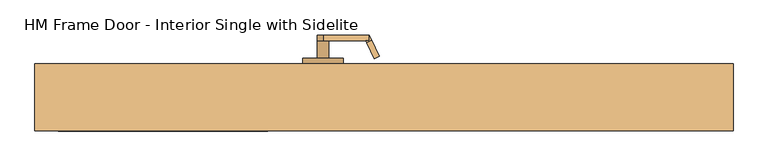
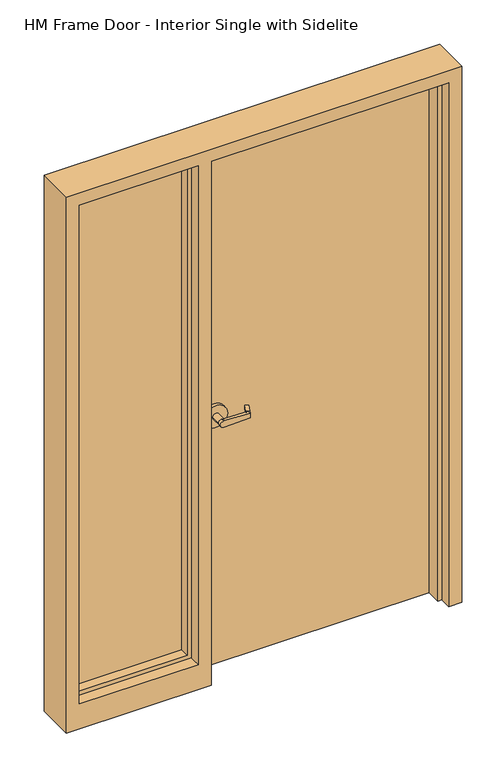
"""IFC4 building model written with IfcOpenShell, lengths in millimetres: door geometry."""

from ifc_helpers import new_model, si_unit, frame, origin, origin_with_axes, place, context, project, spatial, polyline, circle_curve, outline, extrude, faceted_brep, source, transform, mapped, element, save
from ifc_brep_helpers import plane_surface, cylinder_surface, advanced_brep


def hm_frame_door_interior_single_with_sidelite_831faa12(model_context):
    return source(origin(), model_context, "Body", "SolidModel", [
        advanced_brep(
        [(-291.892857, -18.0476392, 1025.525), (-275.7911012, 16.4826875, 1022.35), (-275.7911012, 16.4826875, 1009.65), (-291.892857, -18.0476392, 1006.475), (-293.8407923, -22.225, 1006.475), (-293.8407923, -22.225, 1025.525), (-285.75, -34.925, 1006.475), (-280.3827481, -23.4148911, 1006.475), (-264.2809923, 11.1154356, 1009.65), (-264.2809923, 11.1154356, 1022.35), (-280.3827481, -23.4148911, 1025.525), (-285.75, -34.925, 1025.525), (-285.75, -22.225, 1025.525), (-285.75, -22.225, 1006.475), (-386.9525418, -34.925, 1028.6937791), (-386.9525418, -34.925, 1003.3062209), (-386.9525418, -22.225, 1003.3062209), (-374.65, -22.225, 1016.0), (-386.9525418, -22.225, 1028.6937791), (-400.05, -22.225, 1016.0), (-400.05, 15.875, 1016.0), (-374.65, 15.875, 1016.0), (-431.8, 15.875, 1016.0), (-342.9, 15.875, 1016.0), (-431.8, 28.575, 1016.0), (-342.9, 28.575, 1016.0)],
        [
            (0, 1),
            (1, 2),
            (2, 3),
            (3, 4),
            (4, 5),
            (5, 0),
            (6, 7),
            (7, 8),
            (8, 9),
            (9, 10),
            (10, 11),
            (11, 6),
            (10, 0),
            (5, 12),
            (12, 11),
            (9, 1),
            (8, 2),
            (7, 3),
            (6, 13),
            (13, 4),
            (11, 14),
            (14, 15, circle_curve(frame((-387.35, -34.925, 1016.0), z_axis=(0.0, -1.0, 0.0), x_axis=(1.0, 0.0, 0.0)), 12.7)),
            (15, 6),
            (13, 16),
            (16, 17, circle_curve(frame((-387.35, -22.225, 1016.0), z_axis=(0.0, -1.0, 0.0), x_axis=(1.0, 0.0, 0.0)), 12.7)),
            (17, 18, circle_curve(frame((-387.35, -22.225, 1016.0), z_axis=(0.0, -1.0, 0.0), x_axis=(1.0, 0.0, 0.0)), 12.7)),
            (18, 12),
            (18, 14),
            (18, 19, circle_curve(frame((-387.35, -22.225, 1016.0), z_axis=(0.0, -1.0, 0.0), x_axis=(1.0, 0.0, 0.0)), 12.7)),
            (19, 16, circle_curve(frame((-387.35, -22.225, 1016.0), z_axis=(0.0, -1.0, 0.0), x_axis=(1.0, 0.0, 0.0)), 12.7)),
            (16, 15),
            (19, 20),
            (20, 21, circle_curve(frame((-387.35, 15.875, 1016.0), z_axis=(0.0, -1.0, 0.0), x_axis=(1.0, 0.0, 0.0)), 12.7)),
            (21, 17),
            (21, 20, circle_curve(frame((-387.35, 15.875, 1016.0), z_axis=(0.0, -1.0, 0.0), x_axis=(1.0, 0.0, 0.0)), 12.7)),
            (22, 23, circle_curve(frame((-387.35, 15.875, 1016.0), z_axis=(0.0, -1.0, 0.0), x_axis=(1.0, 0.0, 0.0)), 44.45)),
            (23, 22, circle_curve(frame((-387.35, 15.875, 1016.0), z_axis=(0.0, -1.0, 0.0), x_axis=(1.0, 0.0, 0.0)), 44.45)),
            (24, 25, circle_curve(frame((-387.35, 28.575, 1016.0), z_axis=(0.0, 1.0, 0.0), x_axis=(1.0, 0.0, 0.0)), 44.45)),
            (25, 24, circle_curve(frame((-387.35, 28.575, 1016.0), z_axis=(0.0, 1.0, 0.0), x_axis=(1.0, 0.0, 0.0)), 44.45)),
            (22, 24),
            (25, 23),
        ],
        [
            plane_surface(frame((-297.2601089, -29.5577481, 1025.525), z_axis=(-0.9063077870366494, 0.4226182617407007, 0.0), x_axis=(0.0, 0.0, 1.0))),
            plane_surface(frame((-285.75, -34.925, 1025.525), z_axis=(0.9063077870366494, -0.4226182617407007, 0.0), x_axis=(0.0, 0.0, -1.0))),
            plane_surface(frame((-297.2601089, -29.5577481, 1025.525), z_axis=(0.0, 0.0, 1.0000000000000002), x_axis=(0.9063077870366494, -0.42261826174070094, 0.0))),
            plane_surface(frame((-291.892857, -18.0476392, 1025.525), z_axis=(0.035096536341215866, 0.07526476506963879, 0.9965457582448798), x_axis=(0.9063077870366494, -0.42261826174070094, 0.0))),
            plane_surface(frame((-275.7911012, 16.4826875, 1022.35), z_axis=(0.42261826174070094, 0.9063077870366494, 0.0), x_axis=(0.9063077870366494, -0.42261826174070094, 0.0))),
            plane_surface(frame((-275.7911012, 16.4826875, 1009.65), z_axis=(0.03509653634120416, 0.07526476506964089, -0.9965457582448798), x_axis=(0.9063077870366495, -0.42261826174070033, 0.0))),
            plane_surface(frame((-291.892857, -18.0476392, 1006.475), z_axis=(0.0, 0.0, -1.0000000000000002), x_axis=(0.9063077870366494, -0.42261826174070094, 0.0))),
            plane_surface(frame((-285.75, -34.925, 1025.525), z_axis=(0.0, -1.0, 0.0), x_axis=(-0.9995101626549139, 0.0, 0.03129592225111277))),
            plane_surface(frame((-285.75, -22.225, 1025.525), z_axis=(0.0, 1.0, 0.0), x_axis=(0.9995101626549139, 0.0, -0.03129592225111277))),
            plane_surface(frame((-285.75, -34.925, 1025.525), z_axis=(0.03129592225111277, 0.0, 0.9995101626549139), x_axis=(0.0, 1.0, 0.0))),
            cylinder_surface(frame((-387.35, -22.225, 1016.0), z_axis=(0.0, -1.0, 0.0), x_axis=(1.0, 0.0, 0.0)), 12.7),
            plane_surface(frame((-386.9525418, -34.925, 1003.3062209), z_axis=(0.03129592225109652, 0.0, -0.9995101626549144), x_axis=(0.0, 1.0, 0.0))),
            cylinder_surface(frame((-387.35, 15.875, 1016.0), z_axis=(0.0, -1.0, 0.0), x_axis=(1.0, 0.0, 0.0)), 12.7),
            plane_surface(frame((-342.9, 15.875, 1016.0), z_axis=(0.0, -1.0, 0.0), x_axis=(0.0, 0.0, 1.0))),
            plane_surface(frame((-342.9, 28.575, 1016.0), z_axis=(0.0, 1.0, 0.0), x_axis=(0.0, 0.0, -1.0))),
            cylinder_surface(frame((-387.35, 28.575, 1016.0), z_axis=(0.0, -1.0, 0.0), x_axis=(1.0, 0.0, 0.0)), 44.45),
        ],
        [
            (0, [[1, 2, 3, 4, 5, 6]]),
            (1, [[7, 8, 9, 10, 11, 12]]),
            (2, [[-11, 13, -6, 14, 15]]),
            (3, [[-1, -13, -10, 16]]),
            (4, [[-2, -16, -9, 17]]),
            (5, [[-3, -17, -8, 18]]),
            (6, [[-7, 19, 20, -4, -18]]),
            (7, [[21, 22, 23, -12]]),
            (8, [[24, 25, 26, 27, -14, -5, -20]]),
            (9, [[-21, -15, -27, 28]]),
            (10, [[-22, -28, 29, 30, 31]]),
            (11, [[-23, -31, -24, -19]]),
            (12, [[32, 33, 34, -25, -30]]),
            (12, [[-32, -29, -26, -34, 35]]),
            (13, [[36, 37], [-33, -35]]),
            (14, [[38, 39]]),
            (15, [[-36, 40, -39, 41]]),
            (15, [[-37, -41, -38, -40]]),
        ],
    ),
        advanced_brep(
        [(-291.892857, 119.6476392, 1006.475), (-275.7911012, 85.1173125, 1009.65), (-275.7911012, 85.1173125, 1022.35), (-291.892857, 119.6476392, 1025.525), (-293.8407923, 123.825, 1025.525), (-293.8407923, 123.825, 1006.475), (-285.75, 136.525, 1025.525), (-280.3827481, 125.0148911, 1025.525), (-264.2809923, 90.4845644, 1022.35), (-264.2809923, 90.4845644, 1009.65), (-280.3827481, 125.0148911, 1006.475), (-285.75, 136.525, 1006.475), (-285.75, 123.825, 1006.475), (-285.75, 123.825, 1025.525), (-386.9525418, 136.525, 1003.3062209), (-386.9525418, 136.525, 1028.6937791), (-386.9525418, 123.825, 1028.6937791), (-374.65, 123.825, 1016.0), (-386.9525418, 123.825, 1003.3062209), (-400.05, 123.825, 1016.0), (-400.05, 85.725, 1016.0), (-374.65, 85.725, 1016.0), (-431.8, 85.725, 1016.0), (-342.9, 85.725, 1016.0), (-431.8, 73.025, 1016.0), (-342.9, 73.025, 1016.0)],
        [
            (0, 1),
            (1, 2),
            (2, 3),
            (3, 4),
            (4, 5),
            (5, 0),
            (6, 7),
            (7, 8),
            (8, 9),
            (9, 10),
            (10, 11),
            (11, 6),
            (10, 0),
            (5, 12),
            (12, 11),
            (9, 1),
            (8, 2),
            (7, 3),
            (6, 13),
            (13, 4),
            (11, 14),
            (14, 15, circle_curve(frame((-387.35, 136.525, 1016.0), z_axis=(0.0, 1.0, 0.0), x_axis=(1.0, 0.0, 0.0)), 12.7)),
            (15, 6),
            (13, 16),
            (16, 17, circle_curve(frame((-387.35, 123.825, 1016.0), z_axis=(0.0, 1.0, 0.0), x_axis=(1.0, 0.0, 0.0)), 12.7)),
            (17, 18, circle_curve(frame((-387.35, 123.825, 1016.0), z_axis=(0.0, 1.0, 0.0), x_axis=(1.0, 0.0, 0.0)), 12.7)),
            (18, 12),
            (18, 14),
            (18, 19, circle_curve(frame((-387.35, 123.825, 1016.0), z_axis=(0.0, 1.0, 0.0), x_axis=(1.0, 0.0, 0.0)), 12.7)),
            (19, 16, circle_curve(frame((-387.35, 123.825, 1016.0), z_axis=(0.0, 1.0, 0.0), x_axis=(1.0, 0.0, 0.0)), 12.7)),
            (16, 15),
            (19, 20),
            (20, 21, circle_curve(frame((-387.35, 85.725, 1016.0), z_axis=(0.0, 1.0, 0.0), x_axis=(1.0, 0.0, 0.0)), 12.7)),
            (21, 17),
            (21, 20, circle_curve(frame((-387.35, 85.725, 1016.0), z_axis=(0.0, 1.0, 0.0), x_axis=(1.0, 0.0, 0.0)), 12.7)),
            (22, 23, circle_curve(frame((-387.35, 85.725, 1016.0), z_axis=(0.0, 1.0, 0.0), x_axis=(1.0, 0.0, 0.0)), 44.45)),
            (23, 22, circle_curve(frame((-387.35, 85.725, 1016.0), z_axis=(0.0, 1.0, 0.0), x_axis=(1.0, 0.0, 0.0)), 44.45)),
            (24, 25, circle_curve(frame((-387.35, 73.025, 1016.0), z_axis=(0.0, -1.0, 0.0), x_axis=(1.0, 0.0, 0.0)), 44.45)),
            (25, 24, circle_curve(frame((-387.35, 73.025, 1016.0), z_axis=(0.0, -1.0, 0.0), x_axis=(1.0, 0.0, 0.0)), 44.45)),
            (22, 24),
            (25, 23),
        ],
        [
            plane_surface(frame((-297.2601089, 131.1577481, 1006.475), z_axis=(-0.9063077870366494, -0.4226182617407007, 0.0), x_axis=(0.0, 0.0, -1.0))),
            plane_surface(frame((-285.75, 136.525, 1006.475), z_axis=(0.9063077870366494, 0.4226182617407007, 0.0), x_axis=(0.0, 0.0, 1.0))),
            plane_surface(frame((-297.2601089, 131.1577481, 1006.475), z_axis=(0.0, 0.0, -1.0000000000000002), x_axis=(0.9063077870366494, 0.42261826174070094, 0.0))),
            plane_surface(frame((-291.892857, 119.6476392, 1006.475), z_axis=(0.03509653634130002, -0.07526476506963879, -0.9965457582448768), x_axis=(0.9063077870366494, 0.42261826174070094, 0.0))),
            plane_surface(frame((-275.7911012, 85.1173125, 1009.65), z_axis=(0.42261826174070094, -0.9063077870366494, 0.0), x_axis=(0.9063077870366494, 0.42261826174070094, 0.0))),
            plane_surface(frame((-275.7911012, 85.1173125, 1022.35), z_axis=(0.03509653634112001, -0.07526476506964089, 0.9965457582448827), x_axis=(0.9063077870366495, 0.42261826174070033, 0.0))),
            plane_surface(frame((-291.892857, 119.6476392, 1025.525), z_axis=(0.0, 0.0, 1.0000000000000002), x_axis=(0.9063077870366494, 0.42261826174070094, 0.0))),
            plane_surface(frame((-285.75, 136.525, 1006.475), z_axis=(0.0, 1.0, 0.0), x_axis=(-0.9995101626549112, 0.0, -0.03129592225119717))),
            plane_surface(frame((-285.75, 123.825, 1006.475), z_axis=(0.0, -1.0, 0.0), x_axis=(0.9995101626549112, 0.0, 0.03129592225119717))),
            plane_surface(frame((-285.75, 136.525, 1006.475), z_axis=(0.03129592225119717, 0.0, -0.9995101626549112), x_axis=(0.0, -1.0, 0.0))),
            cylinder_surface(frame((-387.35, 123.825, 1016.0), z_axis=(0.0, 1.0, 0.0), x_axis=(1.0, 0.0, 0.0)), 12.7),
            plane_surface(frame((-386.9525418, 136.525, 1028.6937791), z_axis=(0.031295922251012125, 0.0, 0.9995101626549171), x_axis=(0.0, -1.0, 0.0))),
            cylinder_surface(frame((-387.35, 85.725, 1016.0), z_axis=(0.0, 1.0, 0.0), x_axis=(1.0, 0.0, 0.0)), 12.7),
            plane_surface(frame((-342.9, 85.725, 1016.0), z_axis=(0.0, 1.0, 0.0), x_axis=(0.0, 0.0, -1.0))),
            plane_surface(frame((-342.9, 73.025, 1016.0), z_axis=(0.0, -1.0, 0.0), x_axis=(0.0, 0.0, 1.0))),
            cylinder_surface(frame((-387.35, 73.025, 1016.0), z_axis=(0.0, 1.0, 0.0), x_axis=(1.0, 0.0, 0.0)), 44.45),
        ],
        [
            (0, [[1, 2, 3, 4, 5, 6]]),
            (1, [[7, 8, 9, 10, 11, 12]]),
            (2, [[-11, 13, -6, 14, 15]]),
            (3, [[-1, -13, -10, 16]]),
            (4, [[-2, -16, -9, 17]]),
            (5, [[-3, -17, -8, 18]]),
            (6, [[-7, 19, 20, -4, -18]]),
            (7, [[21, 22, 23, -12]]),
            (8, [[24, 25, 26, 27, -14, -5, -20]]),
            (9, [[-21, -15, -27, 28]]),
            (10, [[-22, -28, 29, 30, 31]]),
            (11, [[-23, -31, -24, -19]]),
            (12, [[32, 33, 34, -25, -30]]),
            (12, [[-32, -29, -26, -34, 35]]),
            (13, [[36, 37], [-33, -35]]),
            (14, [[38, 39]]),
            (15, [[-36, 40, -39, 41]]),
            (15, [[-37, -41, -38, -40]]),
        ],
    ),
        extrude(outline(polyline([(-457.2, 73.025), (457.2, 73.025), (457.2, 28.575), (-457.2, 28.575), (-457.2, 73.025)])), origin_with_axes(), (0.0, 0.0, 1.0), 2133.6),
        extrude(outline(polyline([(-523.875, 9.525), (-949.325, 9.525), (-949.325, 15.875), (-523.875, 15.875), (-523.875, 9.525)])), frame((0.0, 0.0, 117.475), z_axis=(0.0, 0.0, 1.0), x_axis=(1.0, 0.0, 0.0)), (0.0, 0.0, 1.0), 2000.25),
        faceted_brep([(508.0, 73.025, 0.0), (508.0, -73.025, 0.0), (457.2, -73.025, 0.0), (457.2, -28.575, 0.0), (441.325, -28.575, 0.0), (441.325, 28.575, 0.0), (457.2, 28.575, 0.0), (457.2, 73.025, 0.0), (508.0, 73.025, 2184.4), (508.0, -73.025, 2184.4), (-1016.0, -73.025, 2184.4), (-1016.0, -73.025, 0.0), (-457.2, -73.025, 0.0), (-457.2, -73.025, 2133.6), (457.2, -73.025, 2133.6), (-508.0, -73.025, 2133.6), (-508.0, -73.025, 101.6), (-965.2, -73.025, 101.6), (-965.2, -73.025, 2133.6), (457.2, -28.575, 2133.6), (-508.0, -28.575, 2133.6), (-965.2, -28.575, 2133.6), (-965.2, -28.575, 101.6), (-508.0, -28.575, 101.6), (-949.325, -28.575, 2117.725), (-523.875, -28.575, 2117.725), (-523.875, -28.575, 117.475), (-949.325, -28.575, 117.475), (-457.2, -28.575, 2133.6), (-457.2, -28.575, 0.0), (-441.325, -28.575, 0.0), (-441.325, -28.575, 2117.725), (441.325, -28.575, 2117.725), (441.325, 28.575, 2117.725), (-965.2, 28.575, 2133.6), (-508.0, 28.575, 2133.6), (-508.0, 28.575, 101.6), (-965.2, 28.575, 101.6), (-523.875, 28.575, 2117.725), (-949.325, 28.575, 2117.725), (-949.325, 28.575, 117.475), (-523.875, 28.575, 117.475), (-441.325, 28.575, 2117.725), (-441.325, 28.575, 0.0), (-457.2, 28.575, 0.0), (-457.2, 28.575, 2133.6), (457.2, 28.575, 2133.6), (457.2, 73.025, 2133.6), (-457.2, 73.025, 2133.6), (-457.2, 73.025, 0.0), (-1016.0, 73.025, 0.0), (-1016.0, 73.025, 2184.4), (-965.2, 73.025, 2133.6), (-965.2, 73.025, 101.6), (-508.0, 73.025, 101.6), (-508.0, 73.025, 2133.6)], [[[0, 1, 2, 3, 4, 5, 6, 7]], [[1, 0, 8, 9]], [[2, 1, 9, 10, 11, 12, 13, 14], [15, 16, 17, 18]], [[3, 2, 14, 19]], [[20, 21, 22, 23], [24, 25, 26, 27]], [[4, 3, 19, 28, 29, 30, 31, 32]], [[5, 4, 32, 33]], [[34, 35, 36, 37], [38, 39, 40, 41]], [[6, 5, 33, 42, 43, 44, 45, 46]], [[7, 6, 46, 47]], [[0, 7, 47, 48, 49, 50, 51, 8], [52, 53, 54, 55]], [[9, 8, 51, 10]], [[19, 14, 13, 28]], [[18, 21, 20, 15]], [[33, 32, 31, 42]], [[24, 39, 38, 25]], [[47, 46, 45, 48]], [[34, 52, 55, 35]], [[12, 11, 50, 49, 44, 43, 30, 29]], [[11, 10, 51, 50]], [[22, 21, 18, 17]], [[39, 24, 27, 40]], [[52, 34, 37, 53]], [[36, 35, 55, 54]], [[25, 38, 41, 26]], [[15, 20, 23, 16]], [[12, 29, 28, 13]], [[30, 43, 42, 31]], [[44, 49, 48, 45]], [[54, 53, 37, 36]], [[27, 26, 41, 40]], [[17, 16, 23, 22]]]),
    ])


if __name__ == "__main__":
    model = new_model("IFC4")
    model_context = context("Model", 3, world=origin())
    ifc_project = project(units=[si_unit("LENGTHUNIT", "METRE", prefix="MILLI")], contexts=[model_context])
    site = spatial("IfcSite", under=ifc_project)
    building = spatial("IfcBuilding", under=site)
    placement = place(None, origin())
    hm_frame_door_interior_single_with_sidelite_shape = hm_frame_door_interior_single_with_sidelite_831faa12(model_context)
    element("IfcDoor", 1, ObjectType="HM Frame Door - Interior Single with Sidelite : 36\" x 84\" x 5.75\" x 18\" Lite_Wood", at=placement, inside=building, context=model_context, shape_type="MappedRepresentation", body=[
        mapped(hm_frame_door_interior_single_with_sidelite_shape, transform((0.0, 0.0, 0.0), x_axis=(1.0, 0.0, 0.0), y_axis=(0.0, 1.0, 0.0), z_axis=(0.0, 0.0, 1.0))),
    ])
    save(model, "model.ifc")
